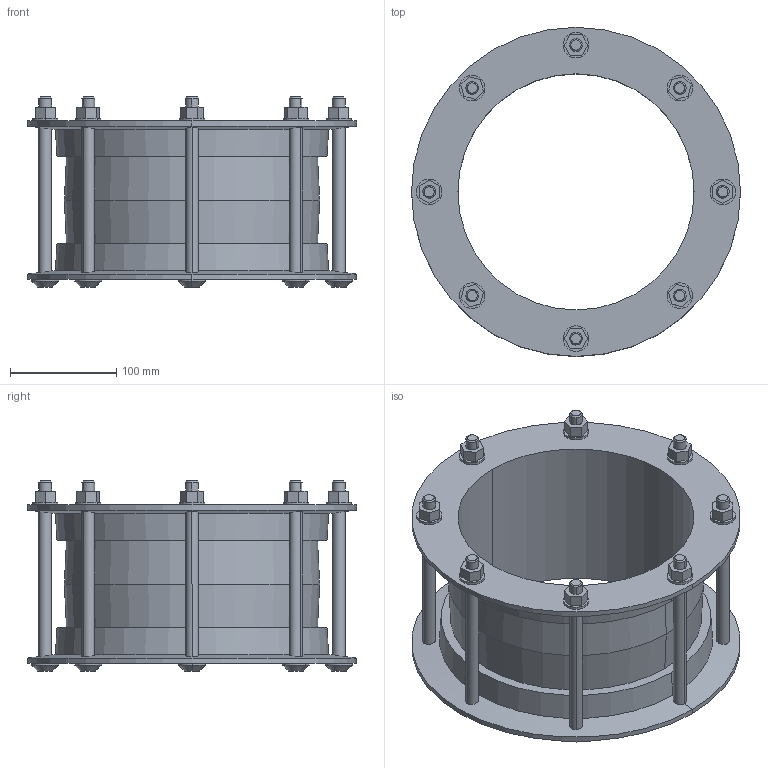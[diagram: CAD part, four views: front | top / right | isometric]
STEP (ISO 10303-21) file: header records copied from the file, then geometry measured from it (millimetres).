
FILE_DESCRIPTION((''),'2;1');
FILE_NAME('FLEXLOCK_COUPLING_219-1','2020-07-28T',('MReader'),(''),'CREO PARAMETRIC BY PTC INC, 2016130','CREO PARAMETRIC BY PTC INC, 2016130','');
FILE_SCHEMA(('CONFIG_CONTROL_DESIGN'));
Length unit declared in the file: millimetre
Products named in the file (1): FLEXLOCK_COUPLING_219-1
Bounding box: 309.32 x 309.32 x 178.63 mm (x, y, z)
Volume: 1798314.8 mm3; surface area: 399539.4 mm2
Topology: 1 solids, 1 shells, 198 faces, 448 edges, 282 vertices
Faces by surface type: plane 84, cylinder 70, cone 44
Entity records: 6280 total; most frequent: CARTESIAN_POINT 1692, DIRECTION 966, ORIENTED_EDGE 896, EDGE_CURVE 448, AXIS2_PLACEMENT_3D 352, VERTEX_POINT 282, VECTOR 262, LINE 262
